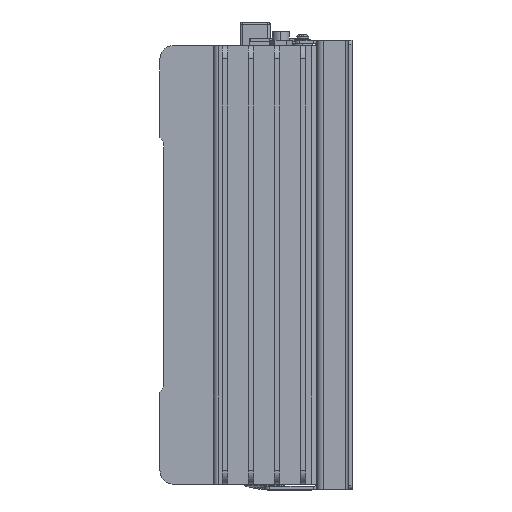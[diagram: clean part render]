
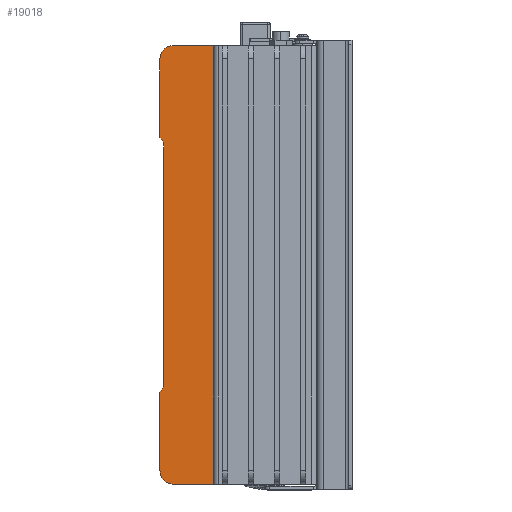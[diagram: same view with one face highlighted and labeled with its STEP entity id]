
A CAD part, left-side view. The second image highlights one B-rep face of the part: STEP entity #19018.
In plain terms, the highlighted planar face has unit normal (-1, 0, 0).
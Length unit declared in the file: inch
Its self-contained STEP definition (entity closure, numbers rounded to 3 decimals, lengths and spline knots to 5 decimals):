
#1053 = VECTOR ( 'NONE', #7135, 39.37008 ) ;
#1828 = AXIS2_PLACEMENT_3D ( 'NONE', #58017, #222634, #59154 ) ;
#2590 = EDGE_LOOP ( 'NONE', ( #125081, #146427, #34075, #70314, #56732, #40893, #216133, #43844, #233820, #18868 ) ) ;
#3338 = CIRCLE ( 'NONE', #136645, 0.25 ) ;
#3725 = CARTESIAN_POINT ( 'NONE',  ( -6.79925, 3.15259, 5.08606 ) ) ;
#4840 = EDGE_CURVE ( 'NONE', #104586, #60017, #61432, .T. ) ;
#5660 = CARTESIAN_POINT ( 'NONE',  ( -6.79925, 3.15259, 3.21876 ) ) ;
#7135 = DIRECTION ( 'NONE',  ( 0., 0., -1. ) ) ;
#10866 = VECTOR ( 'NONE', #96591, 39.37008 ) ;
#18072 = LINE ( 'NONE', #3725, #54408 ) ;
#18868 = ORIENTED_EDGE ( 'NONE', *, *, #143798, .T. ) ;
#19018 = ADVANCED_FACE ( 'NONE', ( #134280 ), #43620, .F. ) ;
#21195 = LINE ( 'NONE', #171605, #221525 ) ;
#25256 = VERTEX_POINT ( 'NONE', #5660 ) ;
#28016 = CARTESIAN_POINT ( 'NONE',  ( -6.79925, 3.22346, 5.08606 ) ) ;
#28133 = DIRECTION ( 'NONE',  ( 0., 1., 0. ) ) ;
#34075 = ORIENTED_EDGE ( 'NONE', *, *, #123751, .T. ) ;
#37785 = VECTOR ( 'NONE', #46383, 39.37008 ) ;
#40893 = ORIENTED_EDGE ( 'NONE', *, *, #186032, .T. ) ;
#43620 = PLANE ( 'NONE',  #1828 ) ;
#43844 = ORIENTED_EDGE ( 'NONE', *, *, #108237, .F. ) ;
#44870 = DIRECTION ( 'NONE',  ( -1., 0., 0. ) ) ;
#46383 = DIRECTION ( 'NONE',  ( 0., 0., -1. ) ) ;
#49222 = CIRCLE ( 'NONE', #193968, 0.25 ) ;
#53916 = DIRECTION ( 'NONE',  ( 0., 0., -1. ) ) ;
#54099 = EDGE_CURVE ( 'NONE', #89701, #59742, #173017, .T. ) ;
#54408 = VECTOR ( 'NONE', #53916, 39.37008 ) ;
#56732 = ORIENTED_EDGE ( 'NONE', *, *, #54099, .T. ) ;
#58017 = CARTESIAN_POINT ( 'NONE',  ( -6.79925, 3.22346, 5.08606 ) ) ;
#59154 = DIRECTION ( 'NONE',  ( 0., 1., 0. ) ) ;
#59742 = VERTEX_POINT ( 'NONE', #183059 ) ;
#60017 = VERTEX_POINT ( 'NONE', #139152 ) ;
#61432 = LINE ( 'NONE', #28016, #174485 ) ;
#64619 = CIRCLE ( 'NONE', #144725, 0.24606 ) ;
#64943 = CARTESIAN_POINT ( 'NONE',  ( -6.79925, 3.15259, -1.1175 ) ) ;
#65469 = LINE ( 'NONE', #137129, #10866 ) ;
#69510 = CARTESIAN_POINT ( 'NONE',  ( -6.79925, 2.2392, -2.98481 ) ) ;
#70314 = ORIENTED_EDGE ( 'NONE', *, *, #178533, .T. ) ;
#70910 = DIRECTION ( 'NONE',  ( 0., 1., 0. ) ) ;
#76625 = DIRECTION ( 'NONE',  ( 0., 1., 0. ) ) ;
#77048 = DIRECTION ( 'NONE',  ( 1., 0., 0. ) ) ;
#79676 = CIRCLE ( 'NONE', #167417, 0.24606 ) ;
#80931 = LINE ( 'NONE', #193134, #37785 ) ;
#82137 = CARTESIAN_POINT ( 'NONE',  ( -6.79925, 3.22346, -1.29189 ) ) ;
#89701 = VERTEX_POINT ( 'NONE', #82137 ) ;
#90695 = EDGE_CURVE ( 'NONE', #165899, #25256, #49222, .T. ) ;
#92426 = EDGE_CURVE ( 'NONE', #171429, #165899, #80931, .T. ) ;
#95369 = CARTESIAN_POINT ( 'NONE',  ( -6.79925, 3.22346, 5.08606 ) ) ;
#96591 = DIRECTION ( 'NONE',  ( 0., -1., 0. ) ) ;
#97346 = CARTESIAN_POINT ( 'NONE',  ( -6.79925, 2.97739, -2.73874 ) ) ;
#104586 = VERTEX_POINT ( 'NONE', #189103 ) ;
#108237 = EDGE_CURVE ( 'NONE', #60017, #222389, #21195, .T. ) ;
#109098 = CARTESIAN_POINT ( 'NONE',  ( -6.79925, 3.40259, 3.21876 ) ) ;
#115920 = CARTESIAN_POINT ( 'NONE',  ( -6.79925, 2.97739, 4.84 ) ) ;
#123751 = EDGE_CURVE ( 'NONE', #25256, #144592, #18072, .T. ) ;
#125081 = ORIENTED_EDGE ( 'NONE', *, *, #92426, .T. ) ;
#125770 = DIRECTION ( 'NONE',  ( 1., 0., 0. ) ) ;
#127480 = CARTESIAN_POINT ( 'NONE',  ( -6.79925, 3.22346, 4.84 ) ) ;
#134280 = FACE_OUTER_BOUND ( 'NONE', #2590, .T. ) ;
#134314 = CARTESIAN_POINT ( 'NONE',  ( -6.79925, 3.40259, -1.1175 ) ) ;
#136645 = AXIS2_PLACEMENT_3D ( 'NONE', #134314, #77048, #136682 ) ;
#136682 = DIRECTION ( 'NONE',  ( 0., 1., 0. ) ) ;
#137129 = CARTESIAN_POINT ( 'NONE',  ( -6.79925, 3.22346, -2.98481 ) ) ;
#139152 = CARTESIAN_POINT ( 'NONE',  ( -6.79925, 2.2392, 5.08606 ) ) ;
#143798 = EDGE_CURVE ( 'NONE', #104586, #171429, #79676, .T. ) ;
#144592 = VERTEX_POINT ( 'NONE', #64943 ) ;
#144725 = AXIS2_PLACEMENT_3D ( 'NONE', #97346, #44870, #28133 ) ;
#146427 = ORIENTED_EDGE ( 'NONE', *, *, #90695, .T. ) ;
#147705 = CARTESIAN_POINT ( 'NONE',  ( -6.79925, 2.97739, -2.98481 ) ) ;
#149511 = DIRECTION ( 'NONE',  ( -1., 0., 0. ) ) ;
#165899 = VERTEX_POINT ( 'NONE', #180912 ) ;
#167417 = AXIS2_PLACEMENT_3D ( 'NONE', #115920, #149511, #76625 ) ;
#171429 = VERTEX_POINT ( 'NONE', #127480 ) ;
#171605 = CARTESIAN_POINT ( 'NONE',  ( -6.79925, 2.2392, 5.08606 ) ) ;
#173017 = LINE ( 'NONE', #95369, #1053 ) ;
#174485 = VECTOR ( 'NONE', #227256, 39.37008 ) ;
#178533 = EDGE_CURVE ( 'NONE', #144592, #89701, #3338, .T. ) ;
#180912 = CARTESIAN_POINT ( 'NONE',  ( -6.79925, 3.22346, 3.39315 ) ) ;
#183059 = CARTESIAN_POINT ( 'NONE',  ( -6.79925, 3.22346, -2.73874 ) ) ;
#186032 = EDGE_CURVE ( 'NONE', #59742, #187402, #64619, .T. ) ;
#187402 = VERTEX_POINT ( 'NONE', #147705 ) ;
#189103 = CARTESIAN_POINT ( 'NONE',  ( -6.79925, 2.97739, 5.08606 ) ) ;
#193134 = CARTESIAN_POINT ( 'NONE',  ( -6.79925, 3.22346, 5.08606 ) ) ;
#193968 = AXIS2_PLACEMENT_3D ( 'NONE', #109098, #125770, #70910 ) ;
#208478 = DIRECTION ( 'NONE',  ( 0., 0., -1. ) ) ;
#216133 = ORIENTED_EDGE ( 'NONE', *, *, #228508, .T. ) ;
#221525 = VECTOR ( 'NONE', #208478, 39.37008 ) ;
#222389 = VERTEX_POINT ( 'NONE', #69510 ) ;
#222634 = DIRECTION ( 'NONE',  ( 1., 0., 0. ) ) ;
#227256 = DIRECTION ( 'NONE',  ( 0., -1., 0. ) ) ;
#228508 = EDGE_CURVE ( 'NONE', #187402, #222389, #65469, .T. ) ;
#233820 = ORIENTED_EDGE ( 'NONE', *, *, #4840, .F. ) ;
